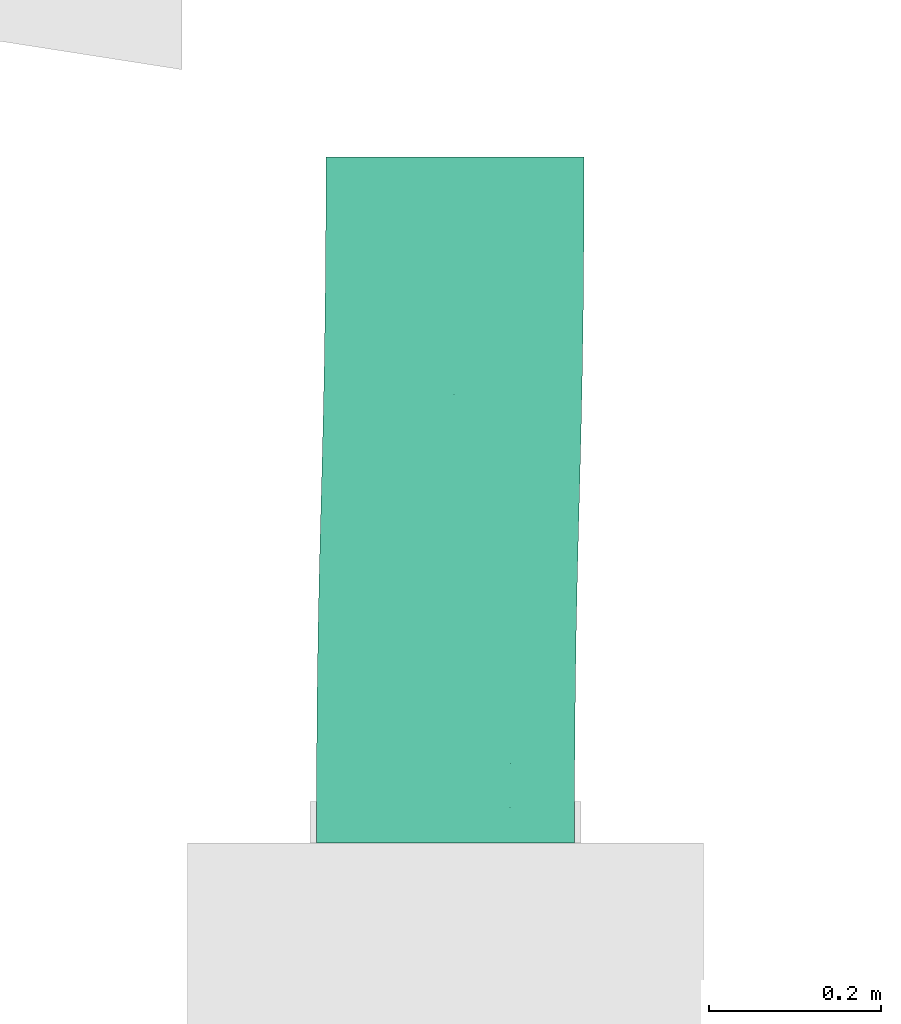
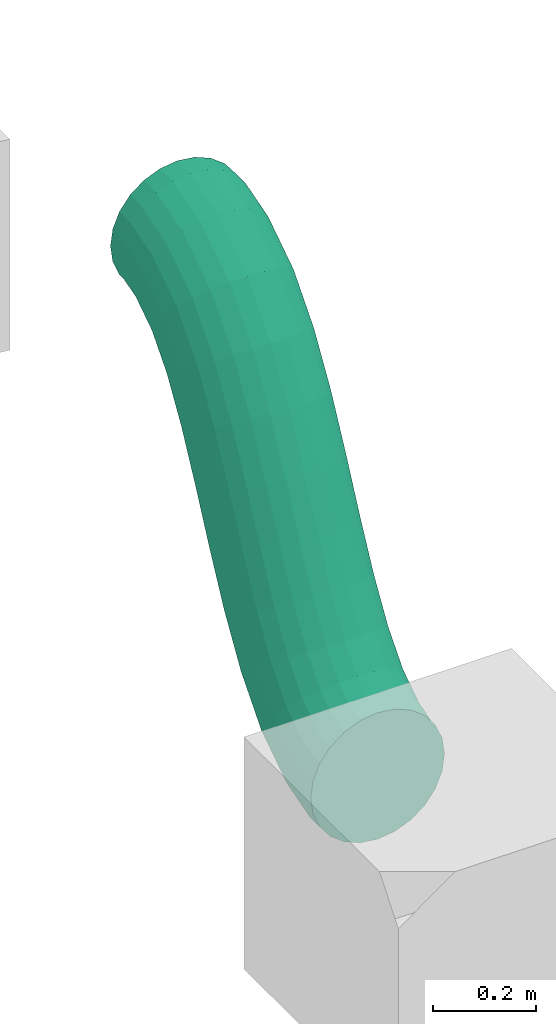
# One storey, part 47 of 60: 1 flow segment.
"""IFC2X3 building model written with IfcOpenShell, lengths in millimetres."""

import ifcopenshell
import ifcopenshell.guid

model = None  # the IFC model being written
_history = None  # IfcOwnerHistory: only IFC2X3 demands one
_inside = {}  # id of a spatial element -> (the spatial element, [elements in it])
_under = {}  # id of a project, library or spatial element -> (it, [spatial elements below it])
_declared = {}  # id of a project -> (the project, [libraries it declares])
_typed = {}  # id of a type object -> (the type object, [elements of that type])
_made_of = {}  # id of a material, layer set ... -> (it, [elements and type objects made of it])


def new_model(schema):
    """Start an empty IFC model of exactly this schema.

    Asked for "IFC4X3", IfcOpenShell would pick the latest addendum, in which some entities
    have other attributes; the version numbers below select the first issue.
    IFC2X3 requires an IfcOwnerHistory on every rooted entity: one is made here for all.
    """
    global model, _history
    if schema == "IFC4X3":
        model = ifcopenshell.file(schema_version=(4, 3, 0, 0))
    else:
        model = ifcopenshell.file(schema=schema)
    _inside.clear()
    _under.clear()
    _declared.clear()
    _typed.clear()
    _made_of.clear()
    _history = None
    if model.schema == "IFC2X3":
        org = make("IfcOrganization", Name="unknown")
        user = make(
            "IfcPersonAndOrganization",
            ThePerson=make("IfcPerson", FamilyName="unknown"),
            TheOrganization=org,
        )
        app = make(
            "IfcApplication",
            ApplicationDeveloper=org,
            Version="unknown",
            ApplicationFullName="unknown",
            ApplicationIdentifier="unknown",
        )
        _history = make(
            "IfcOwnerHistory",
            OwningUser=user,
            OwningApplication=app,
            ChangeAction="ADDED",
            CreationDate=0,
        )
    return model


def make(cls, **values):
    """One entity of the class cls with the attributes given. An attribute that is None is left unset."""
    return model.create_entity(
        cls, **{name: value for name, value in values.items() if value is not None}
    )


def entity(cls, *values):
    """Any entity or typed value of the class cls, its attributes in the order of the schema. None: left unset."""
    e = model.create_entity(cls)
    for i, value in enumerate(values):
        if value is not None:
            e[i] = value
    return e


def rooted(cls, **values):
    """An entity with a GlobalId (a new one), such as an element, a storey or a relation."""
    return make(cls, GlobalId=ifcopenshell.guid.new(), OwnerHistory=_history, **values)


def si_unit(unit_type, name, prefix=None):
    """IfcSIUnit, for example si_unit("LENGTHUNIT", "METRE", prefix="MILLI")."""
    return make("IfcSIUnit", UnitType=unit_type, Prefix=prefix, Name=name)


def converted_unit(unit_type, name, factor, base, dimensions=None, offset=None):
    """IfcConversionBasedUnit, such as the inch: factor (a typed value) times the base unit."""
    return make(
        "IfcConversionBasedUnit"
        if offset is None
        else "IfcConversionBasedUnitWithOffset",
        ConversionOffset=offset,
        Dimensions=None
        if dimensions is None
        else entity("IfcDimensionalExponents", *dimensions),
        UnitType=unit_type,
        Name=name,
        ConversionFactor=make(
            "IfcMeasureWithUnit", ValueComponent=factor, UnitComponent=base
        ),
    )


def derived_unit(unit_type, elements):
    """IfcDerivedUnit: a product of units, each with its exponent."""
    return make(
        "IfcDerivedUnit",
        Elements=[
            make("IfcDerivedUnitElement", Unit=unit, Exponent=power)
            for unit, power in elements
        ],
        UnitType=unit_type,
    )


def assignment(units):
    """IfcUnitAssignment: the units of a project."""
    return None if units is None else make("IfcUnitAssignment", Units=units)


def point(xyz):
    """IfcCartesianPoint."""
    return None if xyz is None else make("IfcCartesianPoint", Coordinates=xyz)


def direction(xyz):
    """IfcDirection."""
    return None if xyz is None else make("IfcDirection", DirectionRatios=xyz)


def frame(location, z_axis=None, x_axis=None):
    """IfcAxis2Placement3D, a coordinate frame: its origin and axes. An axis left out is left unset."""
    return make(
        "IfcAxis2Placement3D",
        Location=point(location),
        Axis=direction(z_axis),
        RefDirection=direction(x_axis),
    )


def origin():
    """The frame at (0, 0, 0) with its axes left unset."""
    return frame((0.0, 0.0, 0.0))


def place(relative_to, where):
    """IfcLocalPlacement: puts the frame where relative to a parent placement (None: the world)."""
    return make(
        "IfcLocalPlacement", PlacementRelTo=relative_to, RelativePlacement=where
    )


def context(
    kind, dimensions, precision=None, world=None, true_north=None, identifier=None
):
    """IfcGeometricRepresentationContext, for example the 3D "Model" context."""
    return make(
        "IfcGeometricRepresentationContext",
        ContextIdentifier=identifier,
        ContextType=kind,
        CoordinateSpaceDimension=dimensions,
        Precision=precision,
        WorldCoordinateSystem=world,
        TrueNorth=true_north,
    )


def subcontext(parent, identifier, kind, view, scale=None):
    """IfcGeometricRepresentationSubContext, for example "Body" below "Model"."""
    return make(
        "IfcGeometricRepresentationSubContext",
        ContextIdentifier=identifier,
        ContextType=kind,
        ParentContext=parent,
        TargetScale=scale,
        TargetView=view,
    )


def project(units=None, contexts=None):
    """IfcProject with its units and contexts."""
    return rooted(
        "IfcProject",
        Name="project",
        RepresentationContexts=contexts,
        UnitsInContext=assignment(units),
    )


def spatial(cls, under=None, at=None, **own):
    """A site, building, storey or space (cls), placed at a placement, below another one or the project."""
    s = rooted(cls, ObjectPlacement=at, **own)
    if under is not None:
        _under.setdefault(under.id(), (under, []))[1].append(s)
    return s


def faces_of(points, faces, orient=None, outer=None):
    """IfcFace entities. A face is a list of loops; a loop is a list of indices into points, from 0.

    orient and outer hold one flag for each loop. By default every Orientation is true, the
    first loop of a face is its IfcFaceOuterBound and the others are IfcFaceBound.
    """
    made = []
    for i, loops in enumerate(faces):
        bounds = []
        for j, loop in enumerate(loops):
            is_outer = j == 0 if outer is None else outer[i][j]
            bounds.append(
                make(
                    "IfcFaceOuterBound" if is_outer else "IfcFaceBound",
                    Bound=make("IfcPolyLoop", Polygon=[points[k] for k in loop]),
                    Orientation=True if orient is None else orient[i][j],
                )
            )
        made.append(make("IfcFace", Bounds=bounds))
    return made


def faceted_brep(points, faces, orient=None, outer=None, voids=None):
    """IfcFacetedBrep: a solid bounded by flat faces; with voids (closed shells), ...WithVoids."""
    shared = [point(p) for p in points]
    hull = make("IfcClosedShell", CfsFaces=faces_of(shared, faces, orient, outer))
    if voids is None:
        return make("IfcFacetedBrep", Outer=hull)
    return make(
        "IfcFacetedBrepWithVoids",
        Outer=hull,
        Voids=[
            make(cls, CfsFaces=faces_of(shared, fs, o, b)) for cls, fs, o, b in voids
        ],
    )


def shape(context_of_items, identifier, shape_type, items):
    """IfcShapeRepresentation: the items that make up one representation, for example the "Body"."""
    return make(
        "IfcShapeRepresentation",
        ContextOfItems=context_of_items,
        RepresentationIdentifier=identifier,
        RepresentationType=shape_type,
        Items=items,
    )


def made_of(thing, what):
    """Note that an element or type object is made of a material, layer set ...; save() writes the relation."""
    if what is not None:
        _made_of.setdefault(what.id(), (what, []))[1].append(thing)
    return thing


def type_object(cls, material=None, **own):
    """A type object (cls), such as IfcWallType, which elements share."""
    return made_of(rooted(cls, **own), material)


def element(
    cls,
    number,
    at=None,
    inside=None,
    cuts=None,
    type_object=None,
    material=None,
    context=None,
    identifier="Body",
    shape_type=None,
    held_by="IfcProductDefinitionShape",
    body=None,
    shapes=None,
    **own,
):
    """One element of the class cls, such as IfcWall. Its Tag is "e" and its number.

    at: its placement. inside: the storey or other place that contains it. cuts: it is an
    opening in that element (IfcRelVoidsElement). A single representation is given by context,
    identifier, shape_type and body (its items); several are given by shapes. held_by: the class
    of the entity that holds the representations. save() writes the other relations.
    """
    e = rooted(cls, Tag="e%d" % number, ObjectPlacement=at, **own)
    if body is not None:
        shapes = [shape(context, identifier, shape_type, body)]
    if shapes is not None:
        e.Representation = make(held_by, Representations=shapes)
    if inside is not None:
        _inside.setdefault(inside.id(), (inside, []))[1].append(e)
    if cuts is not None:
        rooted(
            "IfcRelVoidsElement", RelatingBuildingElement=cuts, RelatedOpeningElement=e
        )
    if type_object is not None:
        _typed.setdefault(type_object.id(), (type_object, []))[1].append(e)
    return made_of(e, material)


def aggregate(whole, parts):
    """IfcRelAggregates: a whole, such as a stair, and the parts it consists of."""
    return rooted("IfcRelAggregates", RelatingObject=whole, RelatedObjects=parts)


def save(model, path):
    """Write the relations noted so far, then the file.

    IfcRelAggregates (storeys below a building ...), IfcRelContainedInSpatialStructure (elements
    in a storey), IfcRelDefinesByType, IfcRelAssociatesMaterial and IfcRelDeclares: one each for
    every whole, place, type object, material and project.
    """
    for whole, parts in _under.values():
        aggregate(whole, parts)
    for where, things in _inside.values():
        rooted(
            "IfcRelContainedInSpatialStructure",
            RelatedElements=things,
            RelatingStructure=where,
        )
    for kind, things in _typed.values():
        rooted("IfcRelDefinesByType", RelatedObjects=things, RelatingType=kind)
    for what, things in _made_of.values():
        rooted("IfcRelAssociatesMaterial", RelatedObjects=things, RelatingMaterial=what)
    for by, libraries in _declared.values():
        rooted("IfcRelDeclares", RelatingContext=by, RelatedDefinitions=libraries)
    model.write(path)


model = new_model("IFC2X3")

# Units and contexts
model_context = context("Model", 3, precision=0.01, world=origin(), true_north=direction((6.123233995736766e-17, 1.0)))
body_context = subcontext(model_context, "Body", "Model", "MODEL_VIEW")
ifc_project = project(units=[si_unit("LENGTHUNIT", "METRE", prefix="MILLI"), converted_unit("PLANEANGLEUNIT", "DEGREE", entity("IfcPlaneAngleMeasure", 0.017453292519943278), si_unit("PLANEANGLEUNIT", "RADIAN"), dimensions=[0, 0, 0, 0, 0, 0, 0]), si_unit("AREAUNIT", "SQUARE_METRE"), derived_unit("THERMALTRANSMITTANCEUNIT", [(si_unit("MASSUNIT", "GRAM", prefix="KILO"), 1), (si_unit("THERMODYNAMICTEMPERATUREUNIT", "KELVIN"), -1), (si_unit("TIMEUNIT", "SECOND"), -3)])], contexts=[model_context])

# Site, building, storey
site_placement = place(None, origin())
site = spatial("IfcSite", under=ifc_project, at=site_placement, Name="Default", CompositionType="ELEMENT")
building_placement = place(site_placement, origin())
building = spatial("IfcBuilding", under=site, at=building_placement, Name="Praça Pedro II, 1301 - Centro (Sul), Teresina - PI, 64001-100", CompositionType="ELEMENT")
storey_placement = place(building_placement, frame((0.0, 0.0, 6040.0)))
storey = spatial("IfcBuildingStorey", under=building, at=storey_placement, Name="2PAV", CompositionType="ELEMENT", Elevation=6040.0)

# Flow segment
duct_segment_type = type_object("IfcDuctSegmentType", Name="Duto flexível redondo:Flexível - Redondo", PredefinedType="FLEXIBLESEGMENT")
flow_segment_placement = place(storey_placement, frame((29771.730736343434, -65980.92492894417, 2507.1988312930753)))
element("IfcFlowSegment", 1, at=flow_segment_placement, inside=storey, type_object=duct_segment_type, Name="Duto flexível redondo:Flexível - Redondo", ObjectType="Duto flexível redondo:Flexível - Redondo", context=body_context, shape_type="Brep", body=[
    faceted_brep([(45.52925505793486, 0.0, 45.52925505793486), (76.59527223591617, 0.0, 21.691461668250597), (112.77241547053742, 0.0, 6.706398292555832), (151.59527223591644, 0.0, 1.5952722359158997), (190.41812900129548, 0.0, 6.706398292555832), (226.59527223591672, 0.0, 21.691461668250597), (257.66128941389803, 0.0, 45.529255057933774), (281.49908280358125, 0.0, 76.59527223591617), (296.48414617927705, 0.0, 112.77241547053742), (301.595272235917, 0.0, 151.59527223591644), (296.48414617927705, 0.0, 190.4181290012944), (281.49908280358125, 0.0, 226.59527223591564), (257.66128941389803, 0.0, 257.66128941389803), (226.59527223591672, 0.0, 281.4990828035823), (190.41812900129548, 0.0, 296.48414617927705), (151.59527223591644, 0.0, 301.595272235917), (112.77241547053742, 0.0, 296.48414617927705), (76.59527223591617, 0.0, 281.4990828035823), (45.52925505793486, 0.0, 257.66128941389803), (21.69146166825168, 0.0, 226.59527223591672), (6.706398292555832, 0.0, 190.4181290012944), (1.5952722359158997, 0.0, 151.59527223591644), (6.706398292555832, 0.0, 112.7724154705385), (21.69146166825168, 0.0, 76.59527223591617), (6.706398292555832, 35.06503553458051, 112.77241547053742), (21.69146166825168, 40.12728069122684, 76.59527223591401), (45.52925505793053, 44.453459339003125, 45.52925505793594), (1.5952722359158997, 29.61170751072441, 151.59527223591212), (76.59527223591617, 47.74874955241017, 21.691461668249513), (112.77241547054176, 49.788582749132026, 6.706398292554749), (151.59527223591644, 50.43394766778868, 1.5952722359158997), (190.41812900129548, 49.64086375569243, 6.706398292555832), (226.59527223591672, 47.463378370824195, 21.691461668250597), (257.66128941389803, 44.04988354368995, 45.529255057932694), (281.49908280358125, 39.63300330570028, 76.59527223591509), (296.48414617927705, 34.513740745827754, 112.77241547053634), (301.595272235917, 29.04096514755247, 151.59527223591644), (296.48414617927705, 23.587637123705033, 190.4181290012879), (281.49908280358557, 18.52539196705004, 226.59527223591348), (257.66128941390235, 14.199213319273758, 257.6612894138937), (190.4181290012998, 8.864089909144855, 296.4841461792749), (151.59527223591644, 8.218724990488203, 301.595272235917), (226.59527223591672, 10.903923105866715, 281.49908280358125), (76.59527223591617, 11.189294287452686, 281.4990828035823), (45.52925505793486, 14.602789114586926, 257.6612894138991), (112.77241547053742, 9.011808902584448, 296.48414617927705), (6.706398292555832, 24.13893191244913, 190.4181290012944), (21.69146166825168, 19.019669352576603, 226.59527223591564), (123.87497431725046, 796.9168935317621, 827.9122947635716), (87.69783108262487, 796.9168935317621, 842.8973581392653), (56.63181390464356, 796.9168935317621, 866.7351515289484), (32.79402051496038, 796.9168935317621, 897.8011687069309), (17.808957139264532, 796.9168935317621, 933.9783119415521), (12.697831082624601, 796.9168935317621, 972.8011687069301), (17.808957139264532, 796.9168935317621, 1011.6240254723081), (32.79402051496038, 796.9168935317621, 1047.8011687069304), (56.63181390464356, 796.9168935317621, 1078.8671858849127), (87.69783108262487, 796.9168935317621, 1102.704979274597), (123.87497431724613, 796.9168935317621, 1117.6900426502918), (162.69783108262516, 796.9168935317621, 1122.8011687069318), (201.52068784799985, 796.9168935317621, 1117.6900426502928), (237.69783108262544, 796.9168935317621, 1102.7049792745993), (268.7638482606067, 796.9168935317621, 1078.867185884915), (292.60164165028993, 796.9168935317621, 1047.8011687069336), (307.5867050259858, 796.9168935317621, 1011.6240254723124), (312.6978310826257, 796.9168935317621, 972.8011687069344), (307.5867050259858, 796.9168935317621, 933.9783119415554), (292.60164165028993, 796.9168935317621, 897.8011687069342), (268.7638482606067, 796.9168935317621, 866.7351515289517), (237.69783108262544, 796.9168935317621, 842.8973581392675), (201.52068784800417, 796.9168935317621, 827.9122947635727), (162.69783108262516, 796.9168935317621, 822.8011687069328), (1.8560298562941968, 96.78561905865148, 170.8823301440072), (7.008635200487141, 112.92444877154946, 135.12750805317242), (22.032203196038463, 127.90588986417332, 101.79837682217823), (45.90290251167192, 140.70898188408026, 73.16626166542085), (76.99398443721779, 150.46121526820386, 51.182393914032), (113.18664311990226, 156.4979914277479, 37.34493782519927), (152.01440868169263, 158.4079140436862, 32.59689316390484), (190.8312330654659, 156.06082504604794, 37.261831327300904), (226.99181383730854, 149.6166746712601, 51.02184448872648), (258.0318671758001, 139.5146211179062, 72.93921049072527), (281.8360647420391, 126.4431026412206, 101.52029706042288), (296.7821898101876, 111.2929216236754, 134.81735038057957), (301.8516886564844, 95.09653786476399, 170.5612312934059), (296.6990833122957, 78.957708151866, 206.3160533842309), (281.6755153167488, 63.976267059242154, 239.64518461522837), (257.8048160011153, 51.173175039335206, 268.2772997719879), (190.52107539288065, 35.38416549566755, 304.0986236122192), (151.69330983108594, 33.47424287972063, 308.84666827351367), (226.7137340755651, 41.42094165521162, 290.2611675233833), (76.71590467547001, 42.26548225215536, 290.421716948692), (45.675851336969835, 52.367535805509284, 268.50435094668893), (112.8764854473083, 35.82133187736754, 304.1817301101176), (6.92552870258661, 80.58923529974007, 206.62621105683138), (21.87165377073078, 65.43905428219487, 239.9232643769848), (2.5691964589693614, 179.10786479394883, 223.63202752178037), (7.800871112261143, 204.37382282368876, 193.7256034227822), (22.897837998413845, 227.82784449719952, 165.8254550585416), (46.83126377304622, 247.8715769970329, 141.83293143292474), (77.97012502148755, 263.13907307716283, 123.38308338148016), (114.19235980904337, 272.58987811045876, 111.73323755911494), (153.0294826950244, 275.5799353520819, 107.67731170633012), (191.8348079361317, 271.9054773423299, 111.4917104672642), (227.96381674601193, 261.81691232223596, 122.9164888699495), (258.9543768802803, 246.001759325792, 141.1730671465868), (282.6945328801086, 225.53779489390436, 165.01728965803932), (297.56643234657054, 201.81960438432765, 192.82421204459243), (302.55657990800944, 176.4635432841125, 222.69883849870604), (297.3249052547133, 151.19758525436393, 252.60526259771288), (282.2279383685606, 127.74356358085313, 280.50541096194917), (258.2945125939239, 107.69983108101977, 304.49793458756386), (227.15565134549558, 92.43233500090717, 322.94778263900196), (190.93341655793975, 82.98152996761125, 334.59762846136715), (152.0962936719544, 79.99147272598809, 338.65355431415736), (113.29096843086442, 83.66593073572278, 334.8391555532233), (77.16195962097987, 93.75449575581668, 323.4143771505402), (46.17139948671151, 109.56964875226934, 305.15779887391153), (7.559344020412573, 153.75180369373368, 253.50665397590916), (22.431243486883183, 130.0336131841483, 281.31357636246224), (3.6328978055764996, 250.27820906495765, 302.30918924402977), (8.947292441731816, 281.07881239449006, 278.5211869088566), (24.121047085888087, 309.67056487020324, 256.30068055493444), (48.120095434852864, 334.10498581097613, 237.1619609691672), (79.30894200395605, 352.7169098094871, 222.4093002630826), (115.56211844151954, 364.23796500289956, 213.04806788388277), (154.40903068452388, 367.883010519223, 209.7162163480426), (193.2023258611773, 363.40364253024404, 212.64080583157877), (229.2983050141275, 351.1051225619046, 221.6225303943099), (260.2370868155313, 331.82557442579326, 236.0493003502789), (283.91024441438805, 306.87886746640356, 254.9379551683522), (298.7044912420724, 277.9650785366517, 277.00126423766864), (303.61162382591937, 247.0546345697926, 300.7356495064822), (298.29722918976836, 216.25403124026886, 324.52365184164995), (283.12347454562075, 187.66227876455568, 346.74415819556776), (259.124426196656, 163.22785782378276, 365.88287778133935), (227.9355796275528, 144.61593382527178, 380.6355384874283), (191.68240318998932, 133.09487863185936, 389.9967708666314), (152.835490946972, 129.44983311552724, 393.32862240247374), (114.0421957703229, 133.92920110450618, 390.40403291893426), (77.94621661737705, 146.227721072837, 381.4223083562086), (47.00743481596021, 165.50726920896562, 366.99553840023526), (8.54003038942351, 219.3677650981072, 326.04357451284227), (23.334277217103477, 190.45397616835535, 348.10688358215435), (4.945275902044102, 313.4604377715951, 399.3798417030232), (10.312412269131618, 346.800202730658, 379.4929058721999), (25.535126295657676, 377.74902204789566, 360.8937028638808), (49.57601517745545, 404.197784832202, 344.8497376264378), (80.79673206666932, 424.3440516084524, 332.4543798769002), (117.06963670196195, 436.8148875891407, 324.5523527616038), (155.9227905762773, 440.76042591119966, 321.6821663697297), (194.70841546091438, 435.9117846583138, 324.0394191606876), (230.78333511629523, 422.5993907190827, 331.4634682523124), (261.689103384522, 401.7304617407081, 343.4483769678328), (285.31954323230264, 374.72718074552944, 359.17739358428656), (300.06427923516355, 343.42977670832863, 377.57861161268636), (304.9184820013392, 309.97111599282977, 397.39801845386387), (299.5513456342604, 276.6313510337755, 417.28495428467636), (284.32863160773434, 245.68253171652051, 435.8841572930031), (260.28774272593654, 219.2337689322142, 451.9281225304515), (229.06702583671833, 199.08750215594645, 464.3234802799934), (192.7941212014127, 186.61666617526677, 472.22550739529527), (153.94096732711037, 182.67112785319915, 475.09569378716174), (115.1553424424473, 187.5197691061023, 472.73844099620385), (79.08042278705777, 200.83216304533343, 465.3143919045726), (48.17465451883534, 221.7010920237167, 453.3294831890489), (9.799478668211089, 280.00177705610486, 419.1992485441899), (24.54421467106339, 248.70437301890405, 437.6004665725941), (6.4063271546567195, 371.86237248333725, 507.44717287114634), (11.798034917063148, 406.18431861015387, 489.3776716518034), (27.043558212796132, 438.0448824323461, 472.465566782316), (51.10393982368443, 465.27281917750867, 457.86339026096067), (82.33950450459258, 486.0125899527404, 446.56625628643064), (118.62160014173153, 498.8508136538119, 439.3440458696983), (157.47766187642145, 502.9125865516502, 436.6889407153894), (196.25971331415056, 497.9211055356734, 438.78188185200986), (232.32482173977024, 484.2165317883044, 445.48023879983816), (263.21520961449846, 462.73280936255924, 456.3275296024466), (286.82574805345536, 434.93401843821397, 470.5845293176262), (301.5474178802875, 402.7146006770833, 487.27964697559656), (306.3769616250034, 368.27025615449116, 505.2751378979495), (300.98525386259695, 333.94831002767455, 523.3446391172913), (285.73973056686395, 302.08774620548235, 540.2567439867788), (261.67934895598, 274.8598094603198, 554.858920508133), (230.44378427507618, 254.12003868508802, 566.1560544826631), (194.16168863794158, 241.28181498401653, 573.3782648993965), (155.30562690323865, 237.2200420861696, 576.0333700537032), (116.52357546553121, 242.21152310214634, 573.9404289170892), (80.45846703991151, 255.91609684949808, 567.2420719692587), (49.568079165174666, 277.3998192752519, 556.3947811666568), (11.235870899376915, 337.4180279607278, 525.4426637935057), (25.957540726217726, 305.1986101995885, 542.1377814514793), (13.307849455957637, 462.9685835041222, 601.0518018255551), (28.55337275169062, 494.82914732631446, 584.1396969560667), (7.916141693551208, 428.6466373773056, 619.1213030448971), (52.61375436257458, 522.057084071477, 569.5375204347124), (83.84931904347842, 542.7968548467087, 558.2403864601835), (120.1314146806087, 555.6350785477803, 551.0181760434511), (158.9874764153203, 559.6968514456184, 548.363070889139), (197.7695278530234, 554.7053704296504, 550.4560120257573), (233.83463627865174, 541.00079668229, 557.1543689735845), (264.72502415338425, 519.5170742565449, 568.0016597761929), (303.057232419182, 459.4988655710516, 598.9537771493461), (307.8867761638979, 425.0545210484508, 616.9492680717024), (288.33556259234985, 491.7182833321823, 582.2586594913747), (302.49506840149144, 390.7325749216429, 635.0187692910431), (287.2495451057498, 358.87201109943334, 651.9308741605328), (263.1891634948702, 331.6440743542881, 666.5330506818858), (231.95359881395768, 310.9043035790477, 677.8301846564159), (195.67150317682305, 298.06607987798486, 685.0523950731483), (156.81544144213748, 294.00430698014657, 687.7075002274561), (118.03339000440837, 298.99578799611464, 685.6145590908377), (81.96828157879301, 312.7003617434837, 678.9162021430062), (51.07789370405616, 334.18408416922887, 668.0689113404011), (27.467355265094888, 361.9828750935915, 653.8119116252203), (12.745685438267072, 394.20229285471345, 637.1167939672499), (14.741757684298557, 520.2855424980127, 707.1114866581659), (29.964471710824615, 551.2343618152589, 688.5122836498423), (9.374621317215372, 486.9457775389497, 726.9984224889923), (54.00536059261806, 577.6831245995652, 672.4683184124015), (85.2260774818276, 597.8293913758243, 660.0729606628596), (121.49898211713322, 610.3002273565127, 652.1709335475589), (160.35213599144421, 614.2457656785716, 649.300747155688), (199.1377608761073, 609.3971244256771, 651.657999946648), (235.21268053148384, 596.084730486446, 659.0820490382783), (266.1184487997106, 575.2158015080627, 671.066957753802), (304.4936246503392, 516.9151164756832, 705.1971923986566), (309.3478274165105, 483.45645576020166, 725.0165992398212), (289.74888864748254, 548.212520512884, 686.7959743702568), (303.9806910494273, 450.11669080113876, 744.9035350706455), (288.7579770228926, 419.1678714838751, 763.5027380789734), (264.7170881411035, 392.7191086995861, 779.5467033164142), (233.49637125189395, 372.572841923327, 791.9420610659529), (197.2234666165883, 360.1020059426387, 799.8440881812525), (158.37031274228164, 356.15646762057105, 802.7142745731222), (119.58468785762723, 361.0051088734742, 800.3570217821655), (83.5097682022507, 374.3175028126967, 792.9329726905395), (52.603999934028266, 395.1864317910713, 780.9480639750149), (28.973560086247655, 422.18971278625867, 765.2190473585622), (14.228824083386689, 453.4871168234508, 746.8178293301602), (15.995874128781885, 580.6628622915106, 799.8727891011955), (31.169628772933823, 609.2546147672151, 777.6522827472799), (10.681479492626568, 549.8622589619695, 823.6607914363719), (55.16867712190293, 633.689035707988, 758.5135631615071), (86.35752369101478, 652.3009597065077, 743.7609024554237), (122.61070012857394, 663.8220148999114, 734.399670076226), (161.45761237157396, 667.4670604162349, 731.0678185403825), (200.250907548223, 662.9876924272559, 733.9924080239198), (236.34688670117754, 650.6891724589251, 742.9741325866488), (267.2856685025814, 631.4096243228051, 757.400902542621), (305.7530729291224, 577.5491284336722, 798.3528664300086), (310.6602055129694, 546.6386844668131, 822.0872516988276), (290.95882610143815, 606.462917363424, 776.2895573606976), (305.34581087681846, 515.8380811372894, 845.8752540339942), (290.17205623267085, 487.2463286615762, 868.095760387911), (266.1730078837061, 462.8119077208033, 887.2344799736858), (234.9841613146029, 444.19998372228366, 901.9871406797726), (198.73098487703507, 432.6789285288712, 911.3483730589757), (159.88407263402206, 429.03388301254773, 914.680224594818), (121.09077745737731, 433.51325100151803, 911.7556351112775), (84.99479830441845, 445.8117709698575, 902.7739105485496), (54.05601650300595, 465.09131910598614, 888.3471405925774), (30.382858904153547, 490.03802606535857, 869.4584857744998), (15.588612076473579, 518.9518149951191, 847.3951767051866), (16.96819806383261, 645.7193082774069, 871.7911783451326), (32.06516494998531, 669.1733299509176, 843.8910299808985), (11.736523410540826, 620.4533502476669, 901.6976024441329), (55.99859072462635, 689.217062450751, 819.8985063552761), (87.13745197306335, 704.4845585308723, 801.4486583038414), (123.35968676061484, 713.9353635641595, 789.7988124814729), (162.19680964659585, 716.9254208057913, 785.7428866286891), (201.00213488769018, 713.2509627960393, 789.55728538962), (237.13114369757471, 703.1623977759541, 800.982063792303), (268.1217038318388, 687.3472447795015, 819.2386420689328), (306.73375929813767, 643.1650898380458, 870.8897869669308), (311.7239068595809, 617.8090287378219, 900.764413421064), (291.86185983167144, 666.8832803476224, 843.082864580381), (306.49223220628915, 592.543070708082, 930.6708375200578), (291.39526532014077, 569.0890490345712, 958.5709858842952), (267.46183954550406, 549.0453165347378, 982.5635095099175), (236.3229782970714, 533.777820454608, 1001.0133575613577), (200.10074350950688, 524.3270154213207, 1012.6632033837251), (161.26362062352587, 521.3369581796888, 1016.7191292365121), (122.45829538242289, 525.0114161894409, 1012.9047304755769), (86.329286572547, 535.0999812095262, 1001.4799520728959), (55.33872643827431, 550.9151342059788, 983.223373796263), (31.598570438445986, 571.3790986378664, 959.3791512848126), (16.726670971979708, 595.0972891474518, 931.5722288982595), (17.594020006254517, 717.9591853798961, 918.0803875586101), (32.61758800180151, 732.9406264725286, 884.7512563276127), (12.441414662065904, 701.8203556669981, 953.8352096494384), (56.48828731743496, 745.7437184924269, 856.11914117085), (87.57936924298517, 755.4959518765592, 834.1352734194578), (123.77202792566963, 761.5327280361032, 820.2978173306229), (162.59979348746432, 763.4426506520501, 815.5497726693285), (201.41661787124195, 761.0955616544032, 820.2147108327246), (237.5771986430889, 754.6514112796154, 833.9747239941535), (268.6172519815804, 744.5493577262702, 855.8920899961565), (307.36757461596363, 716.3276582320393, 917.7702298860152), (312.4370734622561, 700.131274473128, 953.5141107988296), (292.42144954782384, 731.4778392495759, 884.4731765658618), (307.2844681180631, 683.99244476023, 989.2689328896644), (292.2609001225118, 669.0110036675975, 1022.5980641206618), (268.39020080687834, 656.2079116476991, 1051.2301792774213), (237.29911888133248, 646.4556782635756, 1073.2140470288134), (201.10646019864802, 640.4189021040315, 1087.051503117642), (162.27869463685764, 638.5089794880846, 1091.7995477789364), (123.46187025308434, 640.8560684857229, 1087.1346096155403), (87.30128948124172, 647.3002188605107, 1073.3745964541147), (56.26123614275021, 657.4022724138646, 1051.457230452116), (32.45703857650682, 670.4737908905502, 1022.8761438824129), (17.51091350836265, 685.6239719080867, 989.5790905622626), (17.808957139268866, 773.3292564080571, 933.9783119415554), (32.794020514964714, 778.391501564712, 897.801168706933), (12.697831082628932, 767.8759283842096, 972.8011687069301), (56.63181390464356, 782.7176802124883, 866.7351515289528), (123.87497431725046, 788.0528036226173, 827.9122947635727), (162.69783108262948, 788.6981685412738, 822.8011687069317), (87.69783108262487, 786.0129704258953, 842.8973581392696), (237.69783108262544, 785.7275992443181, 842.8973581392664), (268.7638482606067, 782.3141044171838, 866.7351515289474), (201.52068784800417, 787.9050846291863, 827.9122947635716), (307.5867050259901, 772.7779616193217, 933.9783119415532), (312.69783108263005, 767.3051860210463, 972.8011687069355), (292.60164165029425, 777.8972241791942, 897.801168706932), (307.5867050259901, 761.8518579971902, 1011.6240254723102), (292.60164165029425, 756.7896128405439, 1047.8011687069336), (268.7638482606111, 752.4634341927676, 1078.867185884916), (237.69783108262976, 749.168143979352, 1102.7049792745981), (201.52068784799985, 747.12831078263, 1117.690042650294), (162.69783108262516, 746.4829458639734, 1122.8011687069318), (123.87497431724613, 747.2760297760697, 1117.6900426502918), (87.69783108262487, 749.4535151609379, 1102.704979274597), (56.63181390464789, 752.8670099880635, 1078.8671858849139), (32.79402051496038, 757.2838902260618, 1047.8011687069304), (17.808957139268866, 762.4031527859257, 1011.6240254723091)], [[[0, 1, 2, 3, 4, 5, 6, 7, 8, 9, 10, 11, 12, 13, 14, 15, 16, 17, 18, 19, 20, 21, 22, 23]], [[23, 22, 24, 25]], [[0, 23, 25, 26]], [[21, 27, 24, 22]], [[2, 1, 28, 29]], [[3, 2, 29, 30]], [[0, 26, 28, 1]], [[3, 30, 31, 4]], [[4, 31, 32, 5]], [[5, 32, 33, 6]], [[7, 34, 35, 8]], [[8, 35, 36, 9]], [[6, 33, 34, 7]], [[37, 38, 11, 10]], [[36, 37, 10, 9]], [[11, 38, 39, 12]], [[40, 41, 15, 14]], [[42, 40, 14, 13]], [[12, 39, 42, 13]], [[17, 43, 44, 18]], [[45, 43, 17, 16]], [[15, 41, 45, 16]], [[46, 27, 21, 20]], [[47, 46, 20, 19]], [[44, 47, 19, 18]], [[48, 49, 50, 51, 52, 53, 54, 55, 56, 57, 58, 59, 60, 61, 62, 63, 64, 65, 66, 67, 68, 69, 70, 71]], [[24, 27, 72, 73]], [[25, 24, 73, 74]], [[26, 25, 74, 75]], [[29, 28, 76, 77]], [[30, 29, 77, 78]], [[75, 76, 28, 26]], [[30, 78, 79, 31]], [[31, 79, 80, 32]], [[32, 80, 81, 33]], [[33, 81, 82, 34]], [[34, 82, 83, 35]], [[84, 36, 35, 83]], [[85, 86, 38, 37]], [[84, 85, 37, 36]], [[38, 86, 87, 39]], [[88, 89, 41, 40]], [[90, 88, 40, 42]], [[42, 39, 87, 90]], [[43, 91, 92, 44]], [[93, 91, 43, 45]], [[41, 89, 93, 45]], [[94, 72, 27, 46]], [[95, 94, 46, 47]], [[44, 92, 95, 47]], [[72, 96, 97, 73]], [[73, 97, 98, 74]], [[99, 75, 74, 98]], [[76, 100, 101, 77]], [[77, 101, 102, 78]], [[100, 76, 75, 99]], [[79, 78, 102, 103]], [[80, 79, 103, 104]], [[104, 105, 81, 80]], [[82, 81, 105, 106]], [[83, 82, 106, 107]], [[84, 83, 107, 108]], [[109, 110, 86, 85]], [[108, 109, 85, 84]], [[87, 86, 110, 111]], [[112, 113, 88, 90]], [[111, 112, 90, 87]], [[89, 88, 113, 114]], [[115, 116, 91, 93]], [[114, 115, 93, 89]], [[117, 92, 91, 116]], [[118, 96, 72, 94]], [[119, 118, 94, 95]], [[119, 95, 92, 117]], [[96, 120, 121, 97]], [[97, 121, 122, 98]], [[123, 99, 98, 122]], [[100, 124, 125, 101]], [[101, 125, 126, 102]], [[124, 100, 99, 123]], [[103, 102, 126, 127]], [[104, 103, 127, 128]], [[128, 129, 105, 104]], [[106, 105, 129, 130]], [[107, 106, 130, 131]], [[108, 107, 131, 132]], [[133, 134, 110, 109]], [[132, 133, 109, 108]], [[111, 110, 134, 135]], [[136, 137, 113, 112]], [[135, 136, 112, 111]], [[114, 113, 137, 138]], [[139, 140, 116, 115]], [[138, 139, 115, 114]], [[141, 117, 116, 140]], [[142, 120, 96, 118]], [[143, 142, 118, 119]], [[143, 119, 117, 141]], [[120, 144, 145, 121]], [[121, 145, 146, 122]], [[147, 123, 122, 146]], [[124, 148, 149, 125]], [[125, 149, 150, 126]], [[148, 124, 123, 147]], [[127, 126, 150, 151]], [[128, 127, 151, 152]], [[152, 153, 129, 128]], [[130, 129, 153, 154]], [[131, 130, 154, 155]], [[132, 131, 155, 156]], [[157, 158, 134, 133]], [[156, 157, 133, 132]], [[135, 134, 158, 159]], [[160, 161, 137, 136]], [[159, 160, 136, 135]], [[138, 137, 161, 162]], [[163, 164, 140, 139]], [[162, 163, 139, 138]], [[165, 141, 140, 164]], [[166, 144, 120, 142]], [[167, 166, 142, 143]], [[167, 143, 141, 165]], [[144, 168, 169, 145]], [[145, 169, 170, 146]], [[171, 147, 146, 170]], [[148, 172, 173, 149]], [[149, 173, 174, 150]], [[172, 148, 147, 171]], [[151, 150, 174, 175]], [[152, 151, 175, 176]], [[176, 177, 153, 152]], [[154, 153, 177, 178]], [[155, 154, 178, 179]], [[156, 155, 179, 180]], [[181, 182, 158, 157]], [[180, 181, 157, 156]], [[159, 158, 182, 183]], [[184, 185, 161, 160]], [[183, 184, 160, 159]], [[162, 161, 185, 186]], [[187, 188, 164, 163]], [[186, 187, 163, 162]], [[189, 165, 164, 188]], [[190, 168, 144, 166]], [[191, 190, 166, 167]], [[191, 167, 165, 189]], [[192, 193, 170, 169]], [[194, 192, 169, 168]], [[195, 171, 170, 193]], [[196, 197, 173, 172]], [[196, 172, 171, 195]], [[198, 174, 173, 197]], [[199, 200, 176, 175]], [[198, 199, 175, 174]], [[200, 201, 177, 176]], [[202, 203, 180, 179]], [[204, 202, 179, 178]], [[201, 204, 178, 177]], [[181, 180, 203, 205]], [[182, 181, 205, 206]], [[183, 182, 206, 207]], [[185, 184, 208, 209]], [[186, 185, 209, 210]], [[207, 208, 184, 183]], [[186, 210, 211, 187]], [[187, 211, 212, 188]], [[213, 189, 188, 212]], [[189, 213, 214, 191]], [[191, 214, 215, 190]], [[194, 168, 190, 215]], [[216, 217, 193, 192]], [[218, 216, 192, 194]], [[219, 195, 193, 217]], [[220, 221, 197, 196]], [[220, 196, 195, 219]], [[222, 198, 197, 221]], [[223, 224, 200, 199]], [[222, 223, 199, 198]], [[201, 200, 224, 225]], [[226, 227, 203, 202]], [[228, 226, 202, 204]], [[225, 228, 204, 201]], [[205, 203, 227, 229]], [[206, 205, 229, 230]], [[207, 206, 230, 231]], [[209, 208, 232, 233]], [[210, 209, 233, 234]], [[231, 232, 208, 207]], [[210, 234, 235, 211]], [[211, 235, 236, 212]], [[212, 236, 237, 213]], [[213, 237, 238, 214]], [[214, 238, 239, 215]], [[218, 194, 215, 239]], [[240, 241, 217, 216]], [[242, 240, 216, 218]], [[243, 219, 217, 241]], [[244, 245, 221, 220]], [[244, 220, 219, 243]], [[246, 222, 221, 245]], [[247, 248, 224, 223]], [[246, 247, 223, 222]], [[225, 224, 248, 249]], [[250, 251, 227, 226]], [[252, 250, 226, 228]], [[249, 252, 228, 225]], [[229, 227, 251, 253]], [[230, 229, 253, 254]], [[231, 230, 254, 255]], [[233, 232, 256, 257]], [[234, 233, 257, 258]], [[255, 256, 232, 231]], [[234, 258, 259, 235]], [[235, 259, 260, 236]], [[236, 260, 261, 237]], [[237, 261, 262, 238]], [[238, 262, 263, 239]], [[242, 218, 239, 263]], [[264, 265, 241, 240]], [[266, 264, 240, 242]], [[267, 243, 241, 265]], [[268, 269, 245, 244]], [[268, 244, 243, 267]], [[270, 246, 245, 269]], [[271, 272, 248, 247]], [[270, 271, 247, 246]], [[249, 248, 272, 273]], [[274, 275, 251, 250]], [[276, 274, 250, 252]], [[273, 276, 252, 249]], [[253, 251, 275, 277]], [[254, 253, 277, 278]], [[255, 254, 278, 279]], [[257, 256, 280, 281]], [[258, 257, 281, 282]], [[279, 280, 256, 255]], [[258, 282, 283, 259]], [[259, 283, 284, 260]], [[260, 284, 285, 261]], [[261, 285, 286, 262]], [[262, 286, 287, 263]], [[266, 242, 263, 287]], [[288, 289, 265, 264]], [[290, 288, 264, 266]], [[291, 267, 265, 289]], [[292, 293, 269, 268]], [[292, 268, 267, 291]], [[294, 270, 269, 293]], [[295, 296, 272, 271]], [[294, 295, 271, 270]], [[273, 272, 296, 297]], [[298, 299, 275, 274]], [[300, 298, 274, 276]], [[297, 300, 276, 273]], [[277, 275, 299, 301]], [[278, 277, 301, 302]], [[279, 278, 302, 303]], [[281, 280, 304, 305]], [[282, 281, 305, 306]], [[303, 304, 280, 279]], [[282, 306, 307, 283]], [[283, 307, 308, 284]], [[284, 308, 309, 285]], [[285, 309, 310, 286]], [[286, 310, 311, 287]], [[290, 266, 287, 311]], [[312, 313, 289, 288]], [[314, 312, 288, 290]], [[291, 289, 313, 315]], [[316, 317, 294, 293]], [[318, 316, 293, 292]], [[291, 315, 318, 292]], [[319, 320, 297, 296]], [[321, 319, 296, 295]], [[317, 321, 295, 294]], [[322, 323, 299, 298]], [[324, 322, 298, 300]], [[300, 297, 320, 324]], [[299, 323, 325, 301]], [[301, 325, 326, 302]], [[327, 303, 302, 326]], [[304, 328, 329, 305]], [[305, 329, 330, 306]], [[328, 304, 303, 327]], [[307, 306, 330, 331]], [[308, 307, 331, 332]], [[332, 333, 309, 308]], [[310, 309, 333, 334]], [[311, 310, 334, 335]], [[290, 311, 335, 314]], [[312, 314, 53, 52]], [[313, 312, 52, 51]], [[315, 313, 51, 50]], [[48, 71, 317, 316]], [[49, 48, 316, 318]], [[315, 50, 49, 318]], [[317, 71, 70, 321]], [[321, 70, 69, 319]], [[319, 69, 68, 320]], [[324, 67, 66, 322]], [[322, 66, 65, 323]], [[324, 320, 68, 67]], [[323, 65, 64, 325]], [[325, 64, 63, 326]], [[326, 63, 62, 327]], [[328, 61, 60, 329]], [[329, 60, 59, 330]], [[327, 62, 61, 328]], [[331, 330, 59, 58]], [[332, 331, 58, 57]], [[333, 332, 57, 56]], [[335, 334, 55, 54]], [[314, 335, 54, 53]], [[56, 55, 334, 333]]]),
])

save(model, "model.ifc")
